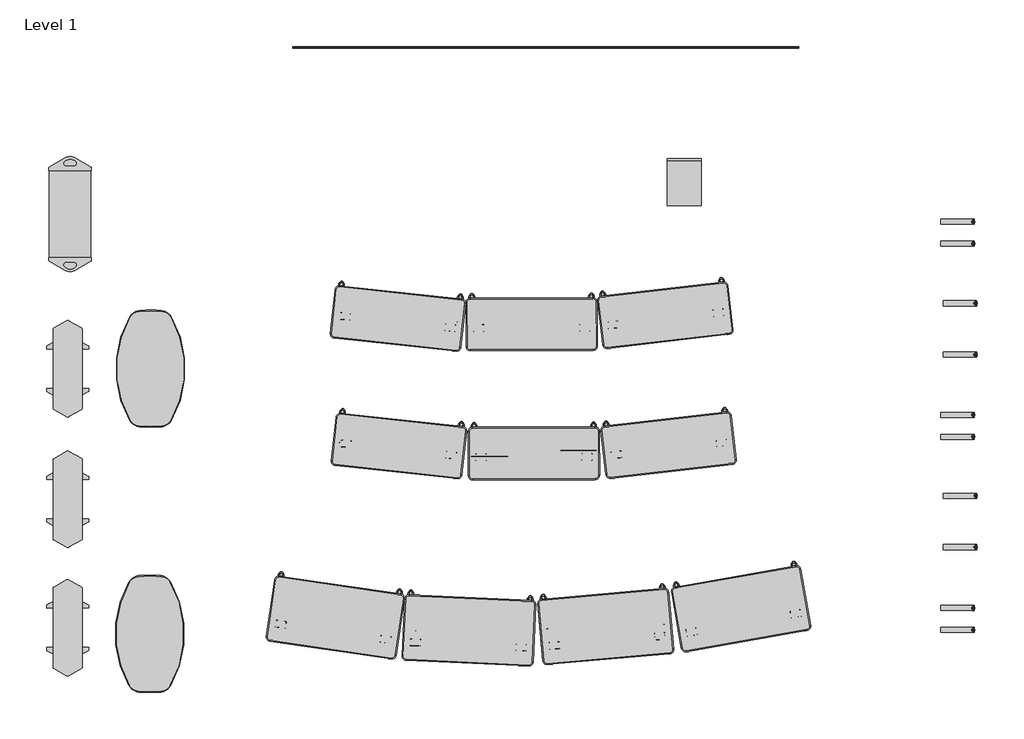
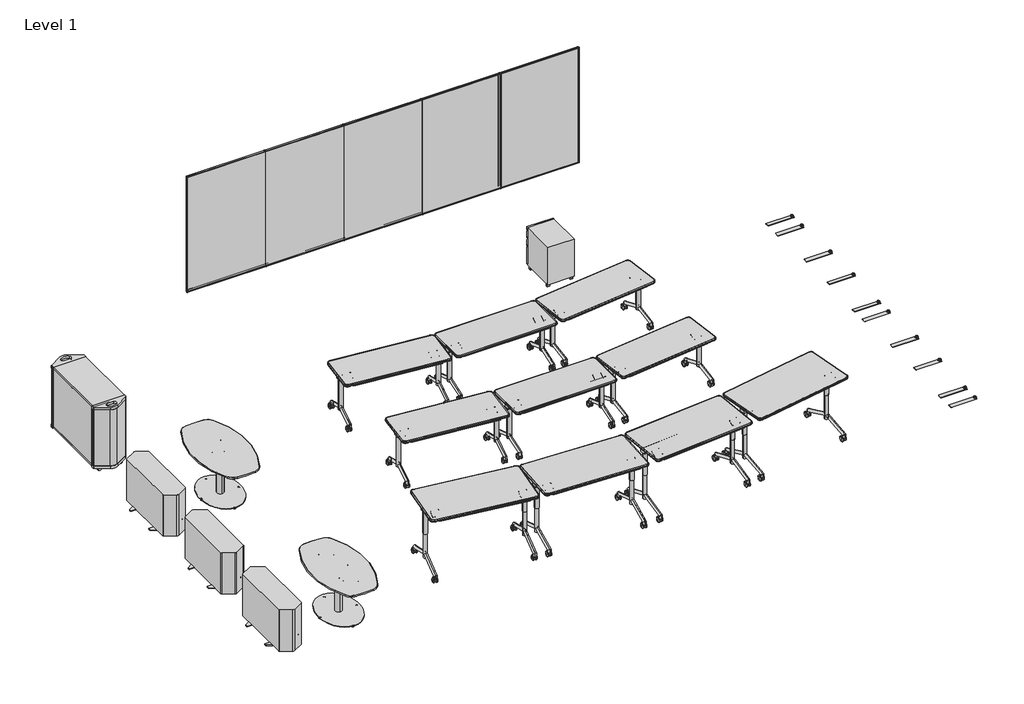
# One storey, incomplete: 27 furniture elements.
"""IFC4 building model written with IfcOpenShell, lengths in millimetres."""

from ifc_helpers import new_model, si_unit, origin, place, context, project, spatial, transform, mapped, element, save
from components import furniture_818722c3, furniture_cddd74b0, furniture_f4e4fc7d, furniture_a0944320, furniture_45545131, box_box_file_3f059d02, double_ea325dfb, polyvision_accessory_board_flow_vertical_5f54c6b5, polyvision_accessory_board_flow_vertical_01536e87, polyvision_accessory_board_flow_vertical_d371d4c1, single_6dff62dc, storage_578cdf4a, straight_cc77db5b

model = new_model("IFC4")

# Units and contexts
model_context = context("Model", 3, world=origin())
ifc_project = project(units=[si_unit("LENGTHUNIT", "METRE", prefix="MILLI")], contexts=[model_context])

# Site, building, storey
site = spatial("IfcSite", under=ifc_project)
building = spatial("IfcBuilding", under=site)
storey = spatial("IfcBuildingStorey", under=building, Name="Level 1", Elevation=0.0)

# Furniture
placement = place(None, origin())
furniture_shape = furniture_818722c3(model_context)
furniture_2_shape = furniture_cddd74b0(model_context)
element("IfcFurniture", 1, ObjectType="SmithSystem_AM_Table_Education_Elemental_NestAndFold_24D : 24D x 60W", at=placement, inside=storey, context=model_context, shape_type="MappedRepresentation", body=[
    mapped(furniture_shape, transform((-65393.4172611, -145000.4143471, 0.0), x_axis=(0.9934311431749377, 0.11443148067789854, 0.0), y_axis=(-0.11443148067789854, 0.9934311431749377, 0.0), z_axis=(0.0, 0.0, 1.0))),
    mapped(furniture_2_shape, transform((-65393.4172611, -145000.4143471, 0.0), x_axis=(0.9934311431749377, 0.11443148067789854, 0.0), y_axis=(-0.11443148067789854, 0.9934311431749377, 0.0), z_axis=(0.0, 0.0, 1.0))),
])
element("IfcFurniture", 2, ObjectType="SmithSystem_AM_Table_Education_Elemental_NestAndFold_24D : 24D x 60W", at=placement, inside=storey, context=model_context, shape_type="MappedRepresentation", body=[
    mapped(furniture_shape, transform((-66917.3773718, -145019.7226732, 0.0), x_axis=(0.999992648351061, 0.003834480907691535, 0.0), y_axis=(-0.003834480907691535, 0.999992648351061, 0.0), z_axis=(0.0, 0.0, 1.0))),
    mapped(furniture_2_shape, transform((-66917.3773718, -145019.7226732, 0.0), x_axis=(0.999992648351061, 0.003834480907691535, 0.0), y_axis=(-0.003834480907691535, 0.999992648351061, 0.0), z_axis=(0.0, 0.0, 1.0))),
])
element("IfcFurniture", 3, ObjectType="SmithSystem_AM_Table_Education_Elemental_NestAndFold_24D : 24D x 60W", at=placement, inside=storey, context=model_context, shape_type="MappedRepresentation", body=[
    mapped(furniture_shape, transform((-68433.7331177, -144869.3847096, 0.0), x_axis=(0.9942086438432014, -0.10746707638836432, 0.0), y_axis=(0.10746707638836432, 0.9942086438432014, 0.0), z_axis=(0.0, 0.0, 1.0))),
    mapped(furniture_2_shape, transform((-68433.7331177, -144869.3847096, 0.0), x_axis=(0.9942086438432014, -0.10746707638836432, 0.0), y_axis=(0.10746707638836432, 0.9942086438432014, 0.0), z_axis=(0.0, 0.0, 1.0))),
])
element("IfcFurniture", 4, ObjectType="SmithSystem_AM_Table_Education_Elemental_NestAndFold_24D : 24D x 60W", at=placement, inside=storey, context=model_context, shape_type="MappedRepresentation", body=[
    mapped(furniture_shape, transform((-66891.9773718, -146521.8979271, 0.0), x_axis=(0.999992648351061, 0.003834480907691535, 0.0), y_axis=(-0.003834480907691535, 0.999992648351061, 0.0), z_axis=(0.0, 0.0, 1.0))),
    mapped(furniture_2_shape, transform((-66891.9773718, -146521.8979271, 0.0), x_axis=(0.999992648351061, 0.003834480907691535, 0.0), y_axis=(-0.003834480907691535, 0.999992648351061, 0.0), z_axis=(0.0, 0.0, 1.0))),
])
element("IfcFurniture", 5, ObjectType="SmithSystem_AM_Table_Education_Elemental_NestAndFold_24D : 24D x 60W", at=placement, inside=storey, context=model_context, shape_type="MappedRepresentation", body=[
    mapped(furniture_shape, transform((-65355.3172611, -146512.0655032, 0.0), x_axis=(0.9934311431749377, 0.11443148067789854, 0.0), y_axis=(-0.11443148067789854, 0.9934311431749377, 0.0), z_axis=(0.0, 0.0, 1.0))),
    mapped(furniture_2_shape, transform((-65355.3172611, -146512.0655032, 0.0), x_axis=(0.9934311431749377, 0.11443148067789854, 0.0), y_axis=(-0.11443148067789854, 0.9934311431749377, 0.0), z_axis=(0.0, 0.0, 1.0))),
])
element("IfcFurniture", 6, ObjectType="SmithSystem_AM_Table_Education_Elemental_NestAndFold_24D : 24D x 60W", at=placement, inside=storey, context=model_context, shape_type="MappedRepresentation", body=[
    mapped(furniture_shape, transform((-68422.2504437, -146352.1891606, 0.0), x_axis=(0.9942086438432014, -0.10746707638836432, 0.0), y_axis=(0.10746707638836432, 0.9942086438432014, 0.0), z_axis=(0.0, 0.0, 1.0))),
    mapped(furniture_2_shape, transform((-68422.2504437, -146352.1891606, 0.0), x_axis=(0.9942086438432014, -0.10746707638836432, 0.0), y_axis=(0.10746707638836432, 0.9942086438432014, 0.0), z_axis=(0.0, 0.0, 1.0))),
])
furniture_3_shape = furniture_f4e4fc7d(model_context)
element("IfcFurniture", 7, ObjectType="SmithSystem_AM_Table_Education_Flowform_LearnLounge_CurvedRectangle : NoPower", at=placement, inside=storey, context=model_context, shape_type="MappedRepresentation", body=[
    mapped(furniture_3_shape, transform((-70585.1928582, -145837.6458936, 0.0), x_axis=(0.0, 1.0, 0.0), y_axis=(-1.0, 0.0, 0.0), z_axis=(0.0, 0.0, 1.0))),
])
element("IfcFurniture", 8, ObjectType="SmithSystem_AM_Table_Education_Flowform_LearnLounge_CurvedRectangle : NoPower", at=placement, inside=storey, context=model_context, shape_type="MappedRepresentation", body=[
    mapped(furniture_3_shape, transform((-70593.0494083, -148922.3362871, 0.0), x_axis=(0.0, 1.0, 0.0), y_axis=(-1.0, 0.0, 0.0), z_axis=(0.0, 0.0, 1.0))),
])
furniture_4_shape = furniture_a0944320(model_context)
furniture_5_shape = furniture_45545131(model_context)
element("IfcFurniture", 9, ObjectType="SmithSystem_AM_Table_Education_Elemental_NestAndFold_30D : 30D x 60W", at=placement, inside=storey, context=model_context, shape_type="MappedRepresentation", body=[
    mapped(furniture_4_shape, transform((-69135.6984637, -148245.2667645, 0.0), x_axis=(0.9894531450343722, -0.14485328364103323, 0.0), y_axis=(0.14485328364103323, 0.9894531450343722, 0.0), z_axis=(0.0, 0.0, 1.0))),
    mapped(furniture_5_shape, transform((-69135.6984637, -148245.2667645, 0.0), x_axis=(0.9894531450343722, -0.14485328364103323, 0.0), y_axis=(0.14485328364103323, 0.9894531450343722, 0.0), z_axis=(0.0, 0.0, 1.0))),
])
element("IfcFurniture", 10, ObjectType="SmithSystem_AM_Table_Education_Elemental_NestAndFold_30D : 30D x 60W", at=placement, inside=storey, context=model_context, shape_type="MappedRepresentation", body=[
    mapped(furniture_4_shape, transform((-67627.7718707, -148466.0231687, 0.0), x_axis=(0.998916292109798, -0.0465428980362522, 0.0), y_axis=(0.0465428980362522, 0.998916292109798, 0.0), z_axis=(0.0, 0.0, 1.0))),
    mapped(furniture_5_shape, transform((-67627.7718707, -148466.0231687, 0.0), x_axis=(0.998916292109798, -0.0465428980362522, 0.0), y_axis=(0.0465428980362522, 0.998916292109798, 0.0), z_axis=(0.0, 0.0, 1.0))),
])
element("IfcFurniture", 11, ObjectType="SmithSystem_AM_Table_Education_Elemental_NestAndFold_30D : 30D x 60W", at=placement, inside=storey, context=model_context, shape_type="MappedRepresentation", body=[
    mapped(furniture_4_shape, transform((-64537.6002868, -148387.1745596, 0.0), x_axis=(0.9848077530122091, 0.173648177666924, 0.0), y_axis=(-0.173648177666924, 0.9848077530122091, 0.0), z_axis=(0.0, 0.0, 1.0))),
    mapped(furniture_5_shape, transform((-64537.6002868, -148387.1745596, 0.0), x_axis=(0.9848077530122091, 0.173648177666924, 0.0), y_axis=(-0.173648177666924, 0.9848077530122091, 0.0), z_axis=(0.0, 0.0, 1.0))),
])
element("IfcFurniture", 12, ObjectType="SmithSystem_AM_Table_Education_Elemental_NestAndFold_30D : 30D x 60W", at=placement, inside=storey, context=model_context, shape_type="MappedRepresentation", body=[
    mapped(furniture_4_shape, transform((-66085.6780878, -148524.043345, 0.0), x_axis=(0.9961946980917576, 0.08715574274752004, 0.0), y_axis=(-0.08715574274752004, 0.9961946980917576, 0.0), z_axis=(0.0, 0.0, 1.0))),
    mapped(furniture_5_shape, transform((-66085.6780878, -148524.043345, 0.0), x_axis=(0.9961946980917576, 0.08715574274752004, 0.0), y_axis=(-0.08715574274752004, 0.9961946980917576, 0.0), z_axis=(0.0, 0.0, 1.0))),
])
box_box_file_shape = box_box_file_3f059d02(model_context)
element("IfcFurniture", 13, ObjectType="SmithSystem_AM_Storage_Pedestal_Drawer : Box/Box/File", at=placement, inside=storey, context=model_context, shape_type="MappedRepresentation", body=[
    mapped(box_box_file_shape, transform((-64380.0494368, -143668.0868466, 0.0), x_axis=(-1.0, 0.0, 0.0), y_axis=(0.0, -1.0, 0.0), z_axis=(0.0, 0.0, 1.0))),
])
double_shape = double_ea325dfb(model_context)
element("IfcFurniture", 14, ObjectType="SmithSystem_AM_Seating_Education_Flowform_LearnLounge_MobileKit_Double : Double", at=placement, inside=storey, context=model_context, shape_type="MappedRepresentation", body=[
    mapped(double_shape, transform((-61236.878292, -147614.2641657, 0.0), x_axis=(0.0, -1.0, 0.0), y_axis=(1.0, 0.0, 0.0), z_axis=(0.0, 0.0, 1.0))),
])
element("IfcFurniture", 15, ObjectType="SmithSystem_AM_Seating_Education_Flowform_LearnLounge_MobileKit_Double : Double", at=placement, inside=storey, context=model_context, shape_type="MappedRepresentation", body=[
    mapped(double_shape, transform((-61238.8749114, -145376.2014991, 0.0), x_axis=(0.0, -1.0, 0.0), y_axis=(1.0, 0.0, 0.0), z_axis=(0.0, 0.0, 1.0))),
])
polyvision_accessory_board_flow_vertical_shape = polyvision_accessory_board_flow_vertical_5f54c6b5(model_context)
element("IfcFurniture", 16, ObjectType="PolyVision_Accessory_Board_Flow_Vertical : 47W x 72H (1185 W x 1830 H)", at=placement, inside=storey, context=model_context, shape_type="MappedRepresentation", body=[
    mapped(polyvision_accessory_board_flow_vertical_shape, transform((-68341.525303, -142102.7677286, 355.6), x_axis=(1.0, 0.0, 0.0), y_axis=(0.0, 1.0, 0.0), z_axis=(0.0, 0.0, 1.0))),
])
polyvision_accessory_board_flow_vertical_2_shape = polyvision_accessory_board_flow_vertical_01536e87(model_context)
element("IfcFurniture", 17, ObjectType="PolyVision_Accessory_Board_Flow_Vertical : 47W x 72H (1185 W x 1830 H)", at=placement, inside=storey, context=model_context, shape_type="MappedRepresentation", body=[
    mapped(polyvision_accessory_board_flow_vertical_2_shape, transform((-67167.3909101, -142102.7677286, 355.6), x_axis=(1.0, 0.0, 0.0), y_axis=(0.0, 1.0, 0.0), z_axis=(0.0, 0.0, 1.0))),
])
element("IfcFurniture", 18, ObjectType="PolyVision_Accessory_Board_Flow_Vertical : 47W x 72H (1185 W x 1830 H)", at=placement, inside=storey, context=model_context, shape_type="MappedRepresentation", body=[
    mapped(polyvision_accessory_board_flow_vertical_2_shape, transform((-65993.2565172, -142102.7677286, 355.6), x_axis=(1.0, 0.0, 0.0), y_axis=(0.0, 1.0, 0.0), z_axis=(0.0, 0.0, 1.0))),
])
element("IfcFurniture", 19, ObjectType="PolyVision_Accessory_Board_Flow_Vertical : 47W x 72H (1185 W x 1830 H)", at=placement, inside=storey, context=model_context, shape_type="MappedRepresentation", body=[
    mapped(polyvision_accessory_board_flow_vertical_2_shape, transform((-64819.1221244, -142102.7677286, 355.6), x_axis=(1.0, 0.0, 0.0), y_axis=(0.0, 1.0, 0.0), z_axis=(0.0, 0.0, 1.0))),
])
polyvision_accessory_board_flow_vertical_3_shape = polyvision_accessory_board_flow_vertical_d371d4c1(model_context)
element("IfcFurniture", 20, ObjectType="PolyVision_Accessory_Board_Flow_Vertical : 47W x 72H (1185 W x 1830 H)", at=placement, inside=storey, context=model_context, shape_type="MappedRepresentation", body=[
    mapped(polyvision_accessory_board_flow_vertical_3_shape, transform((-63644.9877315, -142102.7677286, 355.6), x_axis=(1.0, 0.0, 0.0), y_axis=(0.0, 1.0, 0.0), z_axis=(0.0, 0.0, 1.0))),
])
single_shape = single_6dff62dc(model_context)
element("IfcFurniture", 21, ObjectType="SmithSystem_AM_Seating_Education_Flowform_LearnLounge_MobileKit_Single : Single", at=placement, inside=storey, context=model_context, shape_type="MappedRepresentation", body=[
    mapped(single_shape, transform((-61225.7319342, -144256.1274465, 0.0), x_axis=(0.0, -1.0, 0.0), y_axis=(1.0, 0.0, 0.0), z_axis=(0.0, 0.0, 1.0))),
])
element("IfcFurniture", 22, ObjectType="SmithSystem_AM_Seating_Education_Flowform_LearnLounge_MobileKit_Single : Single", at=placement, inside=storey, context=model_context, shape_type="MappedRepresentation", body=[
    mapped(single_shape, transform((-61225.7319342, -146502.5456903, 0.0), x_axis=(0.0, -1.0, 0.0), y_axis=(1.0, 0.0, 0.0), z_axis=(0.0, 0.0, 1.0))),
])
element("IfcFurniture", 23, ObjectType="SmithSystem_AM_Seating_Education_Flowform_LearnLounge_MobileKit_Single : Single", at=placement, inside=storey, context=model_context, shape_type="MappedRepresentation", body=[
    mapped(single_shape, transform((-61225.7319342, -148748.7822039, 0.0), x_axis=(0.0, -1.0, 0.0), y_axis=(1.0, 0.0, 0.0), z_axis=(0.0, 0.0, 1.0))),
])
storage_shape = storage_578cdf4a(model_context)
element("IfcFurniture", 24, ObjectType="SmithSystem_AM_Storage_Education_Flowform_Mobile_Straight : Storage", at=placement, inside=storey, context=model_context, shape_type="MappedRepresentation", body=[
    mapped(storage_shape, transform((-71519.4645302, -144710.6691927, 0.0), x_axis=(0.0, 1.0, 0.0), y_axis=(-1.0, 0.0, 0.0), z_axis=(0.0, 0.0, 1.0))),
])
straight_shape = straight_cc77db5b(model_context)
element("IfcFurniture", 25, ObjectType="SmithSystem_AM_Seating_Outdoor_Flowform_MidHeightBenchDivider : Straight", at=placement, inside=storey, context=model_context, shape_type="MappedRepresentation", body=[
    mapped(straight_shape, transform((-71547.1943494, -148851.6477823, 0.0), x_axis=(0.0, 1.0, 0.0), y_axis=(-1.0, 0.0, 0.0), z_axis=(0.0, 0.0, 1.0))),
])
element("IfcFurniture", 26, ObjectType="SmithSystem_AM_Seating_Outdoor_Flowform_MidHeightBenchDivider : Straight", at=placement, inside=storey, context=model_context, shape_type="MappedRepresentation", body=[
    mapped(straight_shape, transform((-71547.1943494, -147356.5084655, 0.0), x_axis=(0.0, 1.0, 0.0), y_axis=(-1.0, 0.0, 0.0), z_axis=(0.0, 0.0, 1.0))),
])
element("IfcFurniture", 27, ObjectType="SmithSystem_AM_Seating_Outdoor_Flowform_MidHeightBenchDivider : Straight", at=placement, inside=storey, context=model_context, shape_type="MappedRepresentation", body=[
    mapped(straight_shape, transform((-71547.1943494, -145838.6024465, 0.0), x_axis=(0.0, 1.0, 0.0), y_axis=(-1.0, 0.0, 0.0), z_axis=(0.0, 0.0, 1.0))),
])

save(model, "model.ifc")
